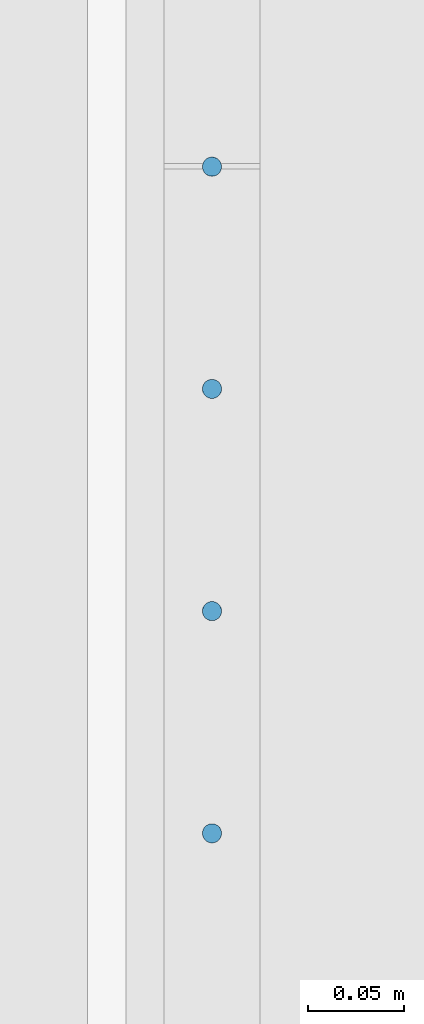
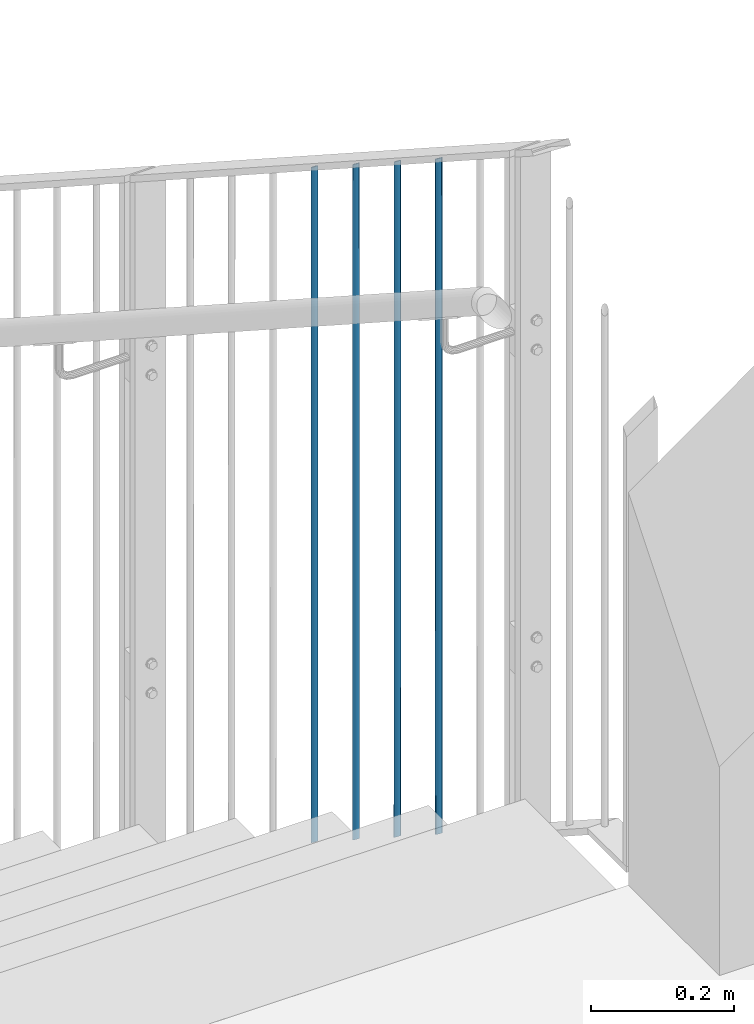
# One storey, part 31 of 296: 4 columns.
"""IFC2X3 building model written with IfcOpenShell, lengths in millimetres."""

from ifc_helpers import new_model, entity, si_unit, converted_unit, frame, origin, origin_with_axes, origin_2d, place, context, project, spatial, circle, extrude, clip, halfspace, material, element, save


model = new_model("IFC2X3")

# Units and contexts
model_context = context("Model", 3, precision=1e-09, world=origin_with_axes())
ifc_project = project(units=[si_unit("LENGTHUNIT", "METRE", prefix="MILLI"), si_unit("AREAUNIT", "SQUARE_METRE"), si_unit("VOLUMEUNIT", "CUBIC_METRE"), converted_unit("PLANEANGLEUNIT", "DEGREE", entity("IfcPlaneAngleMeasure", 0.01745329), si_unit("PLANEANGLEUNIT", "RADIAN"), dimensions=[0, 0, 0, 0, 0, 0, 0])], contexts=[model_context])

# Site, building, storey
site_placement = place(None, origin_with_axes())
site = spatial("IfcSite", under=ifc_project, at=site_placement, Name="TZD-S?d | Treppenhausgel?nder", CompositionType="ELEMENT")
building_placement = place(site_placement, origin_with_axes())
building = spatial("IfcBuilding", under=site, at=building_placement, Name="Struktur 1", CompositionType="ELEMENT")
storey_placement = place(building_placement, origin_with_axes())
storey = spatial("IfcBuildingStorey", under=building, at=storey_placement, Name="Default Storey", CompositionType="ELEMENT", Elevation=0.0)

# Columns
ifc_material = material(Name="S235JR")
column_1_placement = place(None, frame((5894.999, -3165.2777778, 4588.18049841), z_axis=(0.0, 0.0, -1.0), x_axis=(0.0, 1.0, 0.0)))
element("IfcColumn", 1, at=column_1_placement, inside=storey, material=ifc_material, Name="-", ObjectType="-", context=model_context, shape_type="Clipping", body=[
    clip(clip(extrude(circle(Radius=5.0, at=origin_2d()), origin(), (0.0, 0.0, -1.0), 1184.932529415), halfspace(frame((4857.863520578, -5894.999, 1970.371651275), z_axis=(-0.542959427, 0.0, 0.83975893), x_axis=(0.0, 1.0, 0.0)), True)), halfspace(frame((4330.696862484, -5894.999, 2785.704964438), z_axis=(0.542959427, 0.0, -0.83975893), x_axis=(0.0, -1.0, 0.0)), True)),
])
column_2_placement = place(None, frame((5894.999, -3049.1666667, 4513.107021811), z_axis=(0.0, 0.0, -1.0), x_axis=(0.0, 1.0, 0.0)))
element("IfcColumn", 2, at=column_2_placement, inside=storey, material=ifc_material, Name="-", ObjectType="-", context=model_context, shape_type="Clipping", body=[
    clip(clip(extrude(circle(Radius=5.0, at=origin_2d()), origin(), (0.0, 0.0, -1.0), 1184.932529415), halfspace(frame((4741.752409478, -5894.999, 1895.298174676), z_axis=(-0.542959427, 0.0, 0.83975893), x_axis=(0.0, 1.0, 0.0)), True)), halfspace(frame((4214.585751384, -5894.999, 2710.631487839), z_axis=(0.542959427, 0.0, -0.83975893), x_axis=(0.0, -1.0, 0.0)), True)),
])
column_3_placement = place(None, frame((5894.999, -2933.0555556, 4438.033545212), z_axis=(0.0, 0.0, -1.0), x_axis=(0.0, 1.0, 0.0)))
element("IfcColumn", 3, at=column_3_placement, inside=storey, material=ifc_material, Name="-", ObjectType="-", context=model_context, shape_type="Clipping", body=[
    clip(clip(extrude(circle(Radius=5.0, at=origin_2d()), origin(), (0.0, 0.0, -1.0), 1184.932529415), halfspace(frame((4098.474640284, -5894.999, 2635.55801124), z_axis=(0.542959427, 0.0, -0.83975893), x_axis=(0.0, -1.0, 0.0)), True)), halfspace(frame((4625.641298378, -5894.999, 1820.224698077), z_axis=(-0.542959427, 0.0, 0.83975893), x_axis=(0.0, 1.0, 0.0)), True)),
])
column_4_placement = place(None, frame((5894.999, -2816.9444445, 4362.960068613), z_axis=(0.0, 0.0, -1.0), x_axis=(0.0, 1.0, 0.0)))
element("IfcColumn", 4, at=column_4_placement, inside=storey, material=ifc_material, Name="-", ObjectType="-", context=model_context, shape_type="Clipping", body=[
    clip(clip(extrude(circle(Radius=5.0, at=origin_2d()), origin(), (0.0, 0.0, -1.0), 1184.932529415), halfspace(frame((3982.363529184, -5894.999, 2560.484534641), z_axis=(0.542959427, 0.0, -0.83975893), x_axis=(0.0, -1.0, 0.0)), True)), halfspace(frame((4509.530187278, -5894.999, 1745.151221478), z_axis=(-0.542959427, 0.0, 0.83975893), x_axis=(0.0, 1.0, 0.0)), True)),
])

save(model, "model.ifc")
